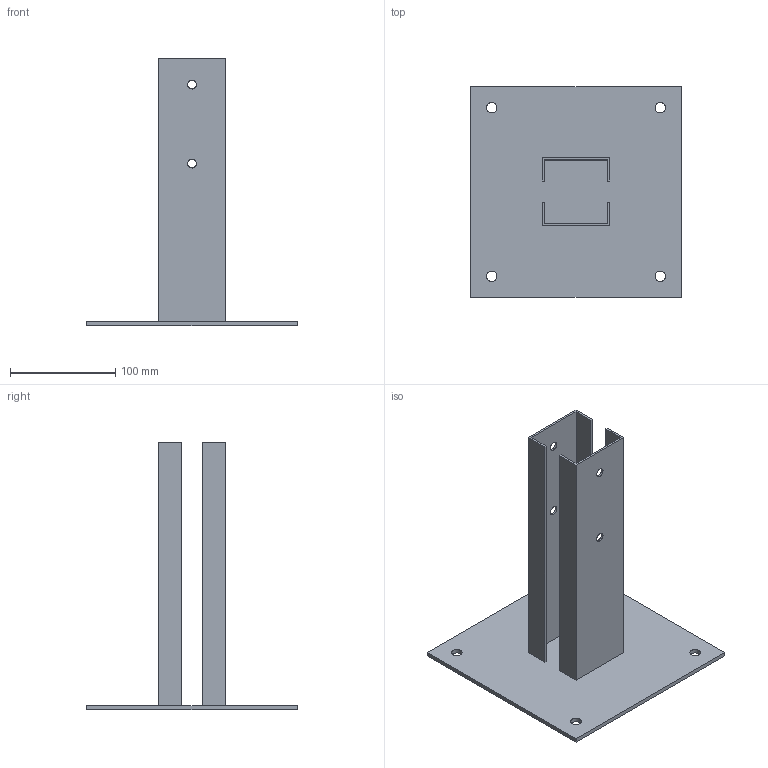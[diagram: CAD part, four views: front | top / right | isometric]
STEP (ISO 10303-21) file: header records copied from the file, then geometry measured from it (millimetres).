
FILE_DESCRIPTION((''),'2;1');
FILE_NAME('X:\Ritarkiv\STEP-Carryline Standarddelar\100-1140.stp','2009-11-09T07:58:48',('marcus'),(''),'Autodesk Inventor 2010','Autodesk Inventor 2010','');
FILE_SCHEMA(('AUTOMOTIVE_DESIGN { 1 0 10303 214 1 1 1 1 }'));
Length unit declared in the file: millimetre
Products named in the file (1): 100-1140
Bounding box: 200 x 200 x 254 mm (x, y, z)
Volume: 262289.7 mm3; surface area: 188833.8 mm2
Topology: 1 solids, 1 shells, 32 faces, 90 edges, 62 vertices
Faces by surface type: plane 24, bspline 8
Entity records: 1106 total; most frequent: CARTESIAN_POINT 301, ORIENTED_EDGE 152, DIRECTION 142, EDGE_CURVE 76, VECTOR 60, LINE 60, EDGE_LOOP 58, VERTEX_POINT 56
